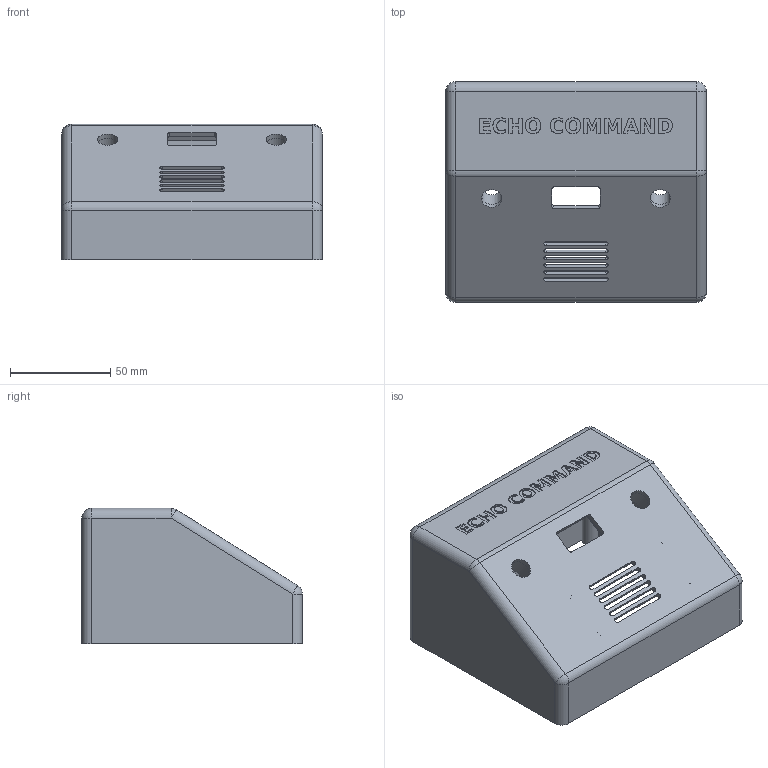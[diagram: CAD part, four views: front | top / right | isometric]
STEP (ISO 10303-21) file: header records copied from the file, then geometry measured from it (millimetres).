
FILE_DESCRIPTION(('FreeCAD Model'),'2;1');
FILE_NAME('Open CASCADE Shape Model','2026-10-21T11:20:03',('Author'),( ''),'Open CASCADE STEP processor 7.9','FreeCAD','Unknown');
FILE_SCHEMA(('AUTOMOTIVE_DESIGN { 1 0 10303 214 1 1 1 1 }'));
Length unit declared in the file: millimetre
Products named in the file (1): Station_Top_Shell
Bounding box: 130 x 110 x 67.5 mm (x, y, z)
Volume: 101520.7 mm3; surface area: 80135.9 mm2
Topology: 1 solids, 1 shells, 502 faces, 1338 edges, 876 vertices
Faces by surface type: plane 246, extrusion 172, cylinder 76, sphere 8
Full cylindrical faces by diameter (mm): 2.2 x4, 4 x4, 5.5 x4, 10.2 x4, 14 x2
Entity records: 17741 total; most frequent: CARTESIAN_POINT 5774, ORIENTED_EDGE 2660, DIRECTION 1964, EDGE_CURVE 1330, VECTOR 998, VERTEX_POINT 876, LINE 826, FACE_BOUND 568
